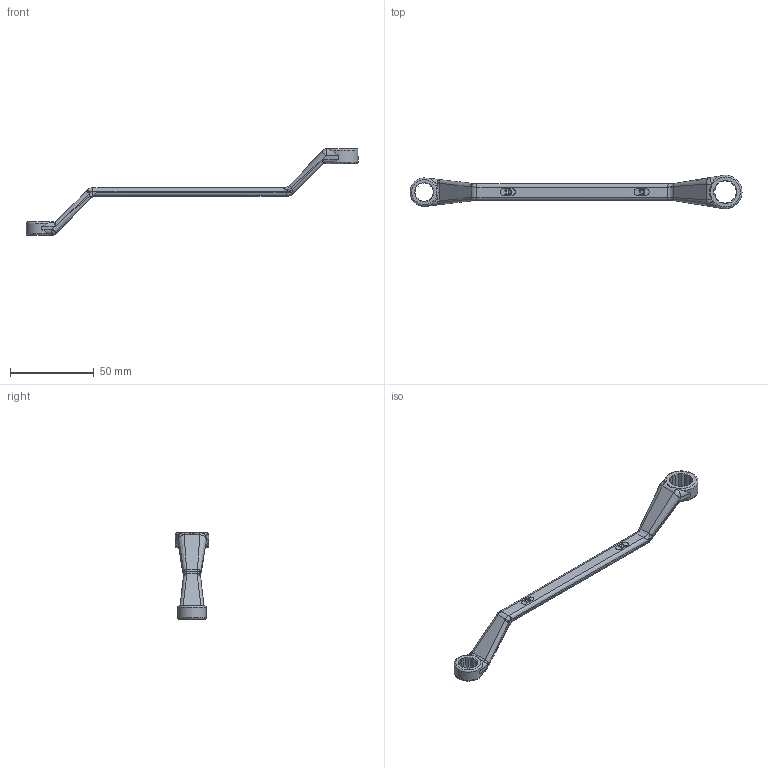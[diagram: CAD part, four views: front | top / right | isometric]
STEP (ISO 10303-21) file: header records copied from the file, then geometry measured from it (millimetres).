
FILE_DESCRIPTION(/* description */ (''),/* implementation_level */ '2;1');
FILE_NAME(/* name */ 'C:\Users\unitec\Documents\Inventor\HP\工具\\X2\3081304C306D30EC30F330C1\X0\\rs-10x12.stp',/* time_stamp */ '2016-03-11T17:12:40+09:00',/* author */ ('unitec'),/* organization */ (''),/* preprocessor_version */ 'ST-DEVELOPER v15.2',/* originating_system */ 'Autodesk Inventor 2014',/* authorisation */ '');
FILE_SCHEMA (('AUTOMOTIVE_DESIGN { 1 0 10303 214 3 1 1 }'));
Length unit declared in the file: millimetre
Products named in the file (1): rs-10x12
Bounding box: 198.5 x 20 x 51.77 mm (x, y, z)
Volume: 12477.5 mm3; surface area: 7257.5 mm2
Topology: 1 solids, 1 shells, 271 faces, 645 edges, 375 vertices
Faces by surface type: plane 109, bspline 66, cone 48, cylinder 35, torus 13
Entity records: 9002 total; most frequent: CARTESIAN_POINT 3498, ORIENTED_EDGE 1266, DIRECTION 962, EDGE_CURVE 633, VERTEX_POINT 373, AXIS2_PLACEMENT_3D 364, EDGE_LOOP 284, ADVANCED_FACE 271
